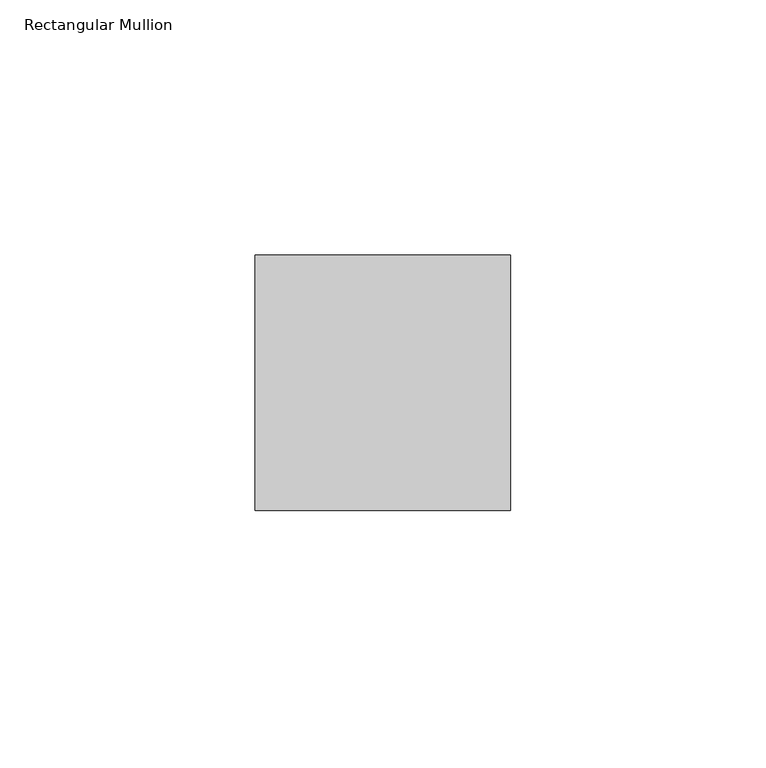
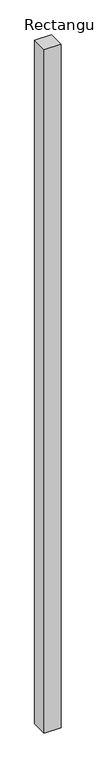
"""IFC4 building model written with IfcOpenShell, lengths in millimetres: member geometry, Rectangular Mullion : Mullion_Curtain Wall_Generic Showcase_50x50mm."""

from ifc_helpers import new_model, si_unit, frame, origin, place, context, project, spatial, polyline, outline, extrude, source, transform, mapped, element, save


def rectangular_mullion_850a0757(model_context):
    return source(origin(), model_context, "Body", "SweptSolid", [
        extrude(outline(polyline([(0.0, 50.0), (0.0, 0.0), (-50.0, 0.0), (-50.0, 50.0), (0.0, 50.0)])), frame((0.0, 0.0, -2175.0), z_axis=(0.0, 0.0, 1.0), x_axis=(1.0, 0.0, 0.0)), (0.0, 0.0, 1.0), 2175.0),
    ])


if __name__ == "__main__":
    model = new_model("IFC4")
    model_context = context("Model", 3, world=origin())
    ifc_project = project(units=[si_unit("LENGTHUNIT", "METRE", prefix="MILLI")], contexts=[model_context])
    site = spatial("IfcSite", under=ifc_project)
    building = spatial("IfcBuilding", under=site)
    placement = place(None, origin())
    rectangular_mullion_shape = rectangular_mullion_850a0757(model_context)
    element("IfcMember", 1, ObjectType="Rectangular Mullion : Mullion_Curtain Wall_Generic Showcase_50x50mm", at=placement, inside=building, context=model_context, shape_type="MappedRepresentation", body=[
        mapped(rectangular_mullion_shape, transform((0.0, 0.0, 0.0), x_axis=(1.0, 0.0, 0.0), y_axis=(0.0, 1.0, 0.0), z_axis=(0.0, 0.0, 1.0))),
    ])
    save(model, "model.ifc")
